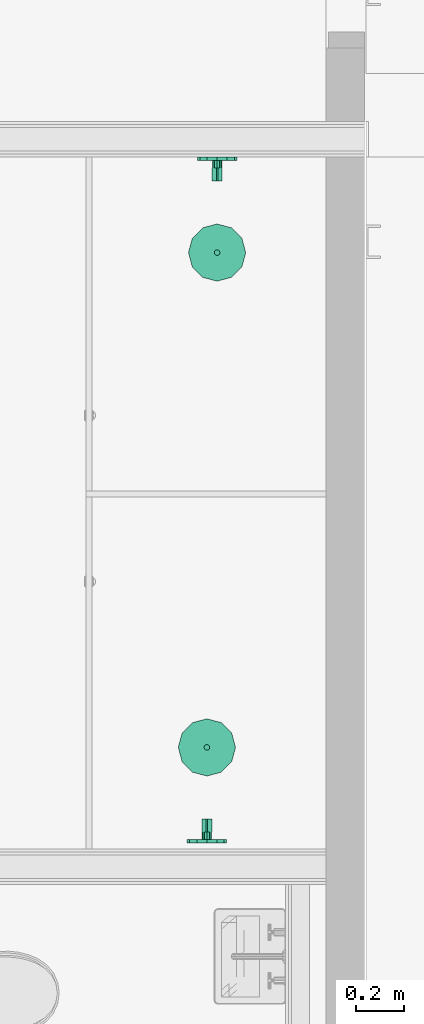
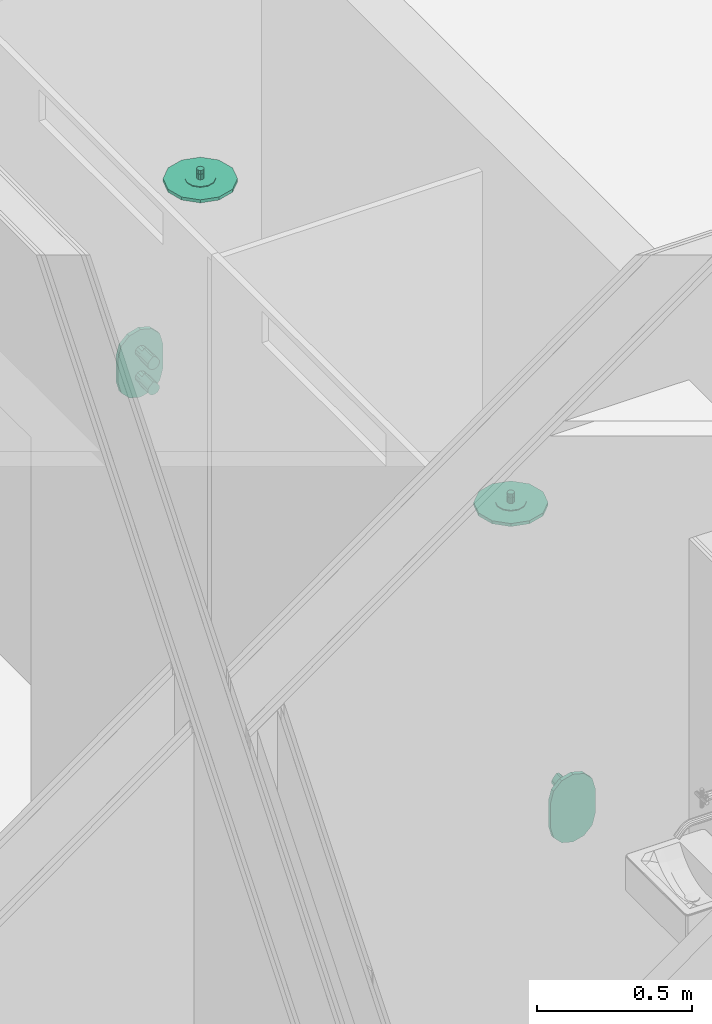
# One storey, part 28 of 35: 2 flow terminals.
"""IFC2X3 building model written with IfcOpenShell, lengths in millimetres."""

import ifcopenshell
import ifcopenshell.guid

model = None  # the IFC model being written
_history = None  # IfcOwnerHistory: only IFC2X3 demands one
_inside = {}  # id of a spatial element -> (the spatial element, [elements in it])
_under = {}  # id of a project, library or spatial element -> (it, [spatial elements below it])
_declared = {}  # id of a project -> (the project, [libraries it declares])
_typed = {}  # id of a type object -> (the type object, [elements of that type])
_made_of = {}  # id of a material, layer set ... -> (it, [elements and type objects made of it])


def new_model(schema):
    """Start an empty IFC model of exactly this schema.

    Asked for "IFC4X3", IfcOpenShell would pick the latest addendum, in which some entities
    have other attributes; the version numbers below select the first issue.
    IFC2X3 requires an IfcOwnerHistory on every rooted entity: one is made here for all.
    """
    global model, _history
    if schema == "IFC4X3":
        model = ifcopenshell.file(schema_version=(4, 3, 0, 0))
    else:
        model = ifcopenshell.file(schema=schema)
    _inside.clear()
    _under.clear()
    _declared.clear()
    _typed.clear()
    _made_of.clear()
    _history = None
    if model.schema == "IFC2X3":
        org = make("IfcOrganization", Name="unknown")
        user = make(
            "IfcPersonAndOrganization",
            ThePerson=make("IfcPerson", FamilyName="unknown"),
            TheOrganization=org,
        )
        app = make(
            "IfcApplication",
            ApplicationDeveloper=org,
            Version="unknown",
            ApplicationFullName="unknown",
            ApplicationIdentifier="unknown",
        )
        _history = make(
            "IfcOwnerHistory",
            OwningUser=user,
            OwningApplication=app,
            ChangeAction="ADDED",
            CreationDate=0,
        )
    return model


def make(cls, **values):
    """One entity of the class cls with the attributes given. An attribute that is None is left unset."""
    return model.create_entity(
        cls, **{name: value for name, value in values.items() if value is not None}
    )


def entity(cls, *values):
    """Any entity or typed value of the class cls, its attributes in the order of the schema. None: left unset."""
    e = model.create_entity(cls)
    for i, value in enumerate(values):
        if value is not None:
            e[i] = value
    return e


def rooted(cls, **values):
    """An entity with a GlobalId (a new one), such as an element, a storey or a relation."""
    return make(cls, GlobalId=ifcopenshell.guid.new(), OwnerHistory=_history, **values)


def si_unit(unit_type, name, prefix=None):
    """IfcSIUnit, for example si_unit("LENGTHUNIT", "METRE", prefix="MILLI")."""
    return make("IfcSIUnit", UnitType=unit_type, Prefix=prefix, Name=name)


def converted_unit(unit_type, name, factor, base, dimensions=None, offset=None):
    """IfcConversionBasedUnit, such as the inch: factor (a typed value) times the base unit."""
    return make(
        "IfcConversionBasedUnit"
        if offset is None
        else "IfcConversionBasedUnitWithOffset",
        ConversionOffset=offset,
        Dimensions=None
        if dimensions is None
        else entity("IfcDimensionalExponents", *dimensions),
        UnitType=unit_type,
        Name=name,
        ConversionFactor=make(
            "IfcMeasureWithUnit", ValueComponent=factor, UnitComponent=base
        ),
    )


def derived_unit(unit_type, elements):
    """IfcDerivedUnit: a product of units, each with its exponent."""
    return make(
        "IfcDerivedUnit",
        Elements=[
            make("IfcDerivedUnitElement", Unit=unit, Exponent=power)
            for unit, power in elements
        ],
        UnitType=unit_type,
    )


def money_unit(currency):
    """IfcMonetaryUnit."""
    return make("IfcMonetaryUnit", Currency=currency)


def assignment(units):
    """IfcUnitAssignment: the units of a project."""
    return None if units is None else make("IfcUnitAssignment", Units=units)


def point(xyz):
    """IfcCartesianPoint."""
    return None if xyz is None else make("IfcCartesianPoint", Coordinates=xyz)


def direction(xyz):
    """IfcDirection."""
    return None if xyz is None else make("IfcDirection", DirectionRatios=xyz)


def frame(location, z_axis=None, x_axis=None):
    """IfcAxis2Placement3D, a coordinate frame: its origin and axes. An axis left out is left unset."""
    return make(
        "IfcAxis2Placement3D",
        Location=point(location),
        Axis=direction(z_axis),
        RefDirection=direction(x_axis),
    )


def origin_with_axes():
    """The frame at (0, 0, 0) with the z axis (0, 0, 1) and the x axis (1, 0, 0) written out."""
    return frame((0.0, 0.0, 0.0), z_axis=(0.0, 0.0, 1.0), x_axis=(1.0, 0.0, 0.0))


def place(relative_to, where):
    """IfcLocalPlacement: puts the frame where relative to a parent placement (None: the world)."""
    return make(
        "IfcLocalPlacement", PlacementRelTo=relative_to, RelativePlacement=where
    )


def context(
    kind, dimensions, precision=None, world=None, true_north=None, identifier=None
):
    """IfcGeometricRepresentationContext, for example the 3D "Model" context."""
    return make(
        "IfcGeometricRepresentationContext",
        ContextIdentifier=identifier,
        ContextType=kind,
        CoordinateSpaceDimension=dimensions,
        Precision=precision,
        WorldCoordinateSystem=world,
        TrueNorth=true_north,
    )


def subcontext(parent, identifier, kind, view, scale=None):
    """IfcGeometricRepresentationSubContext, for example "Body" below "Model"."""
    return make(
        "IfcGeometricRepresentationSubContext",
        ContextIdentifier=identifier,
        ContextType=kind,
        ParentContext=parent,
        TargetScale=scale,
        TargetView=view,
    )


def project(units=None, contexts=None):
    """IfcProject with its units and contexts."""
    return rooted(
        "IfcProject",
        Name="project",
        RepresentationContexts=contexts,
        UnitsInContext=assignment(units),
    )


def spatial(cls, under=None, at=None, **own):
    """A site, building, storey or space (cls), placed at a placement, below another one or the project."""
    s = rooted(cls, ObjectPlacement=at, **own)
    if under is not None:
        _under.setdefault(under.id(), (under, []))[1].append(s)
    return s


def faces_of(points, faces, orient=None, outer=None):
    """IfcFace entities. A face is a list of loops; a loop is a list of indices into points, from 0.

    orient and outer hold one flag for each loop. By default every Orientation is true, the
    first loop of a face is its IfcFaceOuterBound and the others are IfcFaceBound.
    """
    made = []
    for i, loops in enumerate(faces):
        bounds = []
        for j, loop in enumerate(loops):
            is_outer = j == 0 if outer is None else outer[i][j]
            bounds.append(
                make(
                    "IfcFaceOuterBound" if is_outer else "IfcFaceBound",
                    Bound=make("IfcPolyLoop", Polygon=[points[k] for k in loop]),
                    Orientation=True if orient is None else orient[i][j],
                )
            )
        made.append(make("IfcFace", Bounds=bounds))
    return made


def faceted_brep(points, faces, orient=None, outer=None, voids=None):
    """IfcFacetedBrep: a solid bounded by flat faces; with voids (closed shells), ...WithVoids."""
    shared = [point(p) for p in points]
    hull = make("IfcClosedShell", CfsFaces=faces_of(shared, faces, orient, outer))
    if voids is None:
        return make("IfcFacetedBrep", Outer=hull)
    return make(
        "IfcFacetedBrepWithVoids",
        Outer=hull,
        Voids=[
            make(cls, CfsFaces=faces_of(shared, fs, o, b)) for cls, fs, o, b in voids
        ],
    )


def shape(context_of_items, identifier, shape_type, items):
    """IfcShapeRepresentation: the items that make up one representation, for example the "Body"."""
    return make(
        "IfcShapeRepresentation",
        ContextOfItems=context_of_items,
        RepresentationIdentifier=identifier,
        RepresentationType=shape_type,
        Items=items,
    )


def source(mapping_origin, context_of_items, identifier, shape_type, items):
    """IfcRepresentationMap: a shape defined once, which mapped items show again and again."""
    return make(
        "IfcRepresentationMap",
        MappingOrigin=mapping_origin,
        MappedRepresentation=shape(context_of_items, identifier, shape_type, items),
    )


def transform(
    local_origin,
    x_axis=None,
    y_axis=None,
    z_axis=None,
    scale=None,
    scale2=None,
    scale3=None,
    uniform=True,
):
    """IfcCartesianTransformationOperator3D, or its non-uniform kind. x_axis, y_axis, z_axis: its Axis1, 2, 3."""
    if uniform:
        return make(
            "IfcCartesianTransformationOperator3D",
            Axis1=direction(x_axis),
            Axis2=direction(y_axis),
            LocalOrigin=point(local_origin),
            Scale=scale,
            Axis3=direction(z_axis),
        )
    return make(
        "IfcCartesianTransformationOperator3DnonUniform",
        Axis1=direction(x_axis),
        Axis2=direction(y_axis),
        LocalOrigin=point(local_origin),
        Scale=scale,
        Axis3=direction(z_axis),
        Scale2=scale2,
        Scale3=scale3,
    )


def mapped(mapping_source, mapping_target):
    """IfcMappedItem: shows the shape of a source again, moved by a transform."""
    return make(
        "IfcMappedItem", MappingSource=mapping_source, MappingTarget=mapping_target
    )


def made_of(thing, what):
    """Note that an element or type object is made of a material, layer set ...; save() writes the relation."""
    if what is not None:
        _made_of.setdefault(what.id(), (what, []))[1].append(thing)
    return thing


def type_object(cls, material=None, **own):
    """A type object (cls), such as IfcWallType, which elements share."""
    return made_of(rooted(cls, **own), material)


def type_shapes(of_type, sources):
    """Give a type object the sources (RepresentationMaps) that its elements show as mapped items."""
    of_type.RepresentationMaps = sources


def element(
    cls,
    number,
    at=None,
    inside=None,
    cuts=None,
    type_object=None,
    material=None,
    context=None,
    identifier="Body",
    shape_type=None,
    held_by="IfcProductDefinitionShape",
    body=None,
    shapes=None,
    **own,
):
    """One element of the class cls, such as IfcWall. Its Tag is "e" and its number.

    at: its placement. inside: the storey or other place that contains it. cuts: it is an
    opening in that element (IfcRelVoidsElement). A single representation is given by context,
    identifier, shape_type and body (its items); several are given by shapes. held_by: the class
    of the entity that holds the representations. save() writes the other relations.
    """
    e = rooted(cls, Tag="e%d" % number, ObjectPlacement=at, **own)
    if body is not None:
        shapes = [shape(context, identifier, shape_type, body)]
    if shapes is not None:
        e.Representation = make(held_by, Representations=shapes)
    if inside is not None:
        _inside.setdefault(inside.id(), (inside, []))[1].append(e)
    if cuts is not None:
        rooted(
            "IfcRelVoidsElement", RelatingBuildingElement=cuts, RelatedOpeningElement=e
        )
    if type_object is not None:
        _typed.setdefault(type_object.id(), (type_object, []))[1].append(e)
    return made_of(e, material)


def aggregate(whole, parts):
    """IfcRelAggregates: a whole, such as a stair, and the parts it consists of."""
    return rooted("IfcRelAggregates", RelatingObject=whole, RelatedObjects=parts)


def save(model, path):
    """Write the relations noted so far, then the file.

    IfcRelAggregates (storeys below a building ...), IfcRelContainedInSpatialStructure (elements
    in a storey), IfcRelDefinesByType, IfcRelAssociatesMaterial and IfcRelDeclares: one each for
    every whole, place, type object, material and project.
    """
    for whole, parts in _under.values():
        aggregate(whole, parts)
    for where, things in _inside.values():
        rooted(
            "IfcRelContainedInSpatialStructure",
            RelatedElements=things,
            RelatingStructure=where,
        )
    for kind, things in _typed.values():
        rooted("IfcRelDefinesByType", RelatedObjects=things, RelatingType=kind)
    for what, things in _made_of.values():
        rooted("IfcRelAssociatesMaterial", RelatedObjects=things, RelatingMaterial=what)
    for by, libraries in _declared.values():
        rooted("IfcRelDeclares", RelatingContext=by, RelatedDefinitions=libraries)
    model.write(path)


model = new_model("IFC2X3")

# Units and contexts
model_context = context("Model", 3, precision=0.01, world=origin_with_axes(), true_north=direction((0.0, 1.0)))
body_context = subcontext(model_context, "Body", "Model", "MODEL_VIEW")
ifc_project = project(units=[si_unit("LENGTHUNIT", "METRE", prefix="MILLI"), si_unit("AREAUNIT", "SQUARE_METRE"), si_unit("VOLUMEUNIT", "CUBIC_METRE"), converted_unit("PLANEANGLEUNIT", "DEGREE", entity("IfcPlaneAngleMeasure", 0.0174532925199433), si_unit("PLANEANGLEUNIT", "RADIAN"), dimensions=[0, 0, 0, 0, 0, 0, 0]), money_unit("EUR"), converted_unit("TIMEUNIT", "Year", entity("IfcTimeMeasure", 31557600.0), si_unit("TIMEUNIT", "SECOND"), dimensions=[0, 0, 1, 0, 0, 0, 0]), si_unit("MASSUNIT", "GRAM", prefix="KILO"), si_unit("THERMODYNAMICTEMPERATUREUNIT", "DEGREE_CELSIUS"), si_unit("LUMINOUSINTENSITYUNIT", "LUMEN"), si_unit("ENERGYUNIT", "JOULE", prefix="MEGA"), derived_unit("THERMALCONDUCTANCEUNIT", [(si_unit("POWERUNIT", "WATT"), 1), (si_unit("LENGTHUNIT", "METRE"), -1), (si_unit("THERMODYNAMICTEMPERATUREUNIT", "KELVIN"), -1)]), derived_unit("SPECIFICHEATCAPACITYUNIT", [(si_unit("ENERGYUNIT", "JOULE"), 1), (si_unit("MASSUNIT", "GRAM", prefix="KILO"), -1), (si_unit("THERMODYNAMICTEMPERATUREUNIT", "KELVIN"), -1)]), derived_unit("MASSDENSITYUNIT", [(si_unit("MASSUNIT", "GRAM", prefix="KILO"), 1), (si_unit("VOLUMEUNIT", "CUBIC_METRE"), -1)])], contexts=[model_context])

# Site, building, storey
site_placement = place(None, origin_with_axes())
site = spatial("IfcSite", under=ifc_project, at=site_placement, Name="<site naam>", CompositionType="ELEMENT")
building_placement = place(site_placement, origin_with_axes())
building = spatial("IfcBuilding", under=site, at=building_placement, Name="<Naam gebouw>", CompositionType="ELEMENT")
storey_placement = place(building_placement, frame((0.0, 0.0, 6345.0), z_axis=(0.0, 0.0, 1.0), x_axis=(1.0, 0.0, 0.0)))
storey = spatial("IfcBuildingStorey", under=building, at=storey_placement, Name="02 2e tussenverdieping", CompositionType="ELEMENT", Elevation=6345.0)

# Flow terminals
sanitary_terminal_type = type_object("IfcSanitaryTerminalType", Name="Douche armatuur 27", PredefinedType="NOTDEFINED")
shared_shape = source(origin_with_axes(), body_context, "Body", "Brep", [
    faceted_brep([(-83.0, 0.0, 1000.0), (-83.0, 0.0, 950.0), (-83.0, -15.0, 950.0), (-83.0, -15.0, 1000.0), (-83.0, 0.0, 1050.0), (-71.88010851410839, 0.0, 1091.5), (-41.49999999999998, 0.0, 1121.880108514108), (0.0, 0.0, 1133.0), (41.50000000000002, 0.0, 1121.880108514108), (71.88010851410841, 0.0, 1091.5), (83.0, 0.0, 1050.0), (83.0, 0.0, 950.0), (71.88010851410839, 0.0, 908.5), (41.49999999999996, 0.0, 878.1198914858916), (0.0, 0.0, 867.0), (-41.50000000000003, 0.0, 878.1198914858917), (-71.88010851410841, 0.0, 908.5), (-71.88010851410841, -15.00000000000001, 908.5), (-41.50000000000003, -15.00000000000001, 878.1198914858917), (0.0, -15.00000000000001, 867.0), (41.49999999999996, -15.00000000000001, 878.1198914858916), (71.88010851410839, -15.00000000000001, 908.5), (83.0, -15.0, 950.0), (83.0, -15.0, 1050.0), (71.88010851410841, -14.99999999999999, 1091.5), (41.50000000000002, -14.99999999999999, 1121.880108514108), (0.0, -14.99999999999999, 1133.0), (-41.49999999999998, -14.99999999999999, 1121.880108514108), (-71.88010851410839, -14.99999999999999, 1091.5), (-83.0, -15.0, 1050.0)], [[[0, 1, 2, 3]], [[0, 4, 5, 6, 7, 8, 9, 10, 11, 12, 13, 14, 15, 16, 1]], [[1, 16, 17, 2]], [[3, 2, 17, 18, 19, 20, 21, 22, 23, 24, 25, 26, 27, 28, 29]], [[4, 0, 3, 29]], [[5, 4, 29, 28]], [[6, 5, 28, 27]], [[7, 6, 27, 26]], [[8, 7, 26, 25]], [[9, 8, 25, 24]], [[10, 9, 24, 23]], [[11, 10, 23, 22]], [[12, 11, 22, 21]], [[13, 12, 21, 20]], [[14, 13, 20, 19]], [[15, 14, 19, 18]], [[16, 15, 18, 17]]]),
    faceted_brep([(17.32050807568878, -45.0, 960.0), (20.0, -45.0, 950.0), (20.0, -15.0, 950.0), (17.32050807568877, -15.0, 960.0), (10.00000000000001, -45.0, 967.3205080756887), (0.0, -45.0, 970.0), (-9.999999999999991, -45.0, 967.3205080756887), (-17.32050807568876, -45.0, 960.0), (-19.99999999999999, -45.0, 950.0), (-17.32050807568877, -45.0, 940.0), (-10.00000000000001, -45.0, 932.6794919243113), (0.0, -45.0, 929.9999999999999), (9.999999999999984, -45.0, 932.6794919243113), (17.32050807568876, -45.0, 940.0), (17.32050807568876, -15.0, 940.0), (9.999999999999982, -15.0, 932.6794919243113), (0.0, -15.0, 929.9999999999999), (-10.00000000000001, -15.0, 932.6794919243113), (-17.32050807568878, -15.0, 940.0), (-20.0, -15.0, 950.0), (-17.32050807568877, -15.0, 960.0), (-9.999999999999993, -15.0, 967.3205080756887), (0.0, -15.0, 970.0), (10.0, -15.0, 967.3205080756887)], [[[0, 1, 2, 3]], [[1, 0, 4, 5, 6, 7, 8, 9, 10, 11, 12, 13]], [[1, 13, 14, 2]], [[2, 14, 15, 16, 17, 18, 19, 20, 21, 22, 23, 3]], [[4, 0, 3, 23]], [[5, 4, 23, 22]], [[6, 5, 22, 21]], [[7, 6, 21, 20]], [[8, 7, 20, 19]], [[9, 8, 19, 18]], [[10, 9, 18, 17]], [[11, 10, 17, 16]], [[12, 11, 16, 15]], [[13, 12, 15, 14]]]),
    faceted_brep([(-3.111269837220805, -45.0, 978.0014285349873), (-15.55634918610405, -45.0, 965.5563491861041), (-15.55634918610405, -100.0, 965.5563491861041), (-3.111269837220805, -100.0, 978.0014285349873), (3.111269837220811, -45.0, 978.0014285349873), (15.55634918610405, -45.0, 965.5563491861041), (21.2503681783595, -45.0, 955.6940189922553), (21.2503681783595, -45.0, 944.3059810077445), (15.55634918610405, -45.0, 934.4436508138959), (5.694018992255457, -45.0, 928.7496318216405), (-5.694018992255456, -45.0, 928.7496318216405), (-15.55634918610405, -45.0, 934.4436508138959), (-21.2503681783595, -45.0, 944.3059810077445), (-21.2503681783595, -45.0, 955.6940189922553), (-21.2503681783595, -100.0, 955.6940189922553), (-21.2503681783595, -100.0, 944.3059810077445), (-15.55634918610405, -100.0, 934.4436508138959), (-5.694018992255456, -100.0, 928.7496318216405), (5.694018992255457, -100.0, 928.7496318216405), (15.55634918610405, -100.0, 934.4436508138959), (21.2503681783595, -100.0, 944.3059810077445), (21.2503681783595, -100.0, 955.6940189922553), (15.55634918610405, -100.0, 965.5563491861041), (3.111269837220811, -100.0, 978.0014285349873)], [[[0, 1, 2, 3]], [[0, 4, 5, 6, 7, 8, 9, 10, 11, 12, 13, 1]], [[1, 13, 14, 2]], [[3, 2, 14, 15, 16, 17, 18, 19, 20, 21, 22, 23]], [[4, 0, 3, 23]], [[5, 4, 23, 22]], [[6, 5, 22, 21]], [[7, 6, 21, 20]], [[8, 7, 20, 19]], [[9, 8, 19, 18]], [[10, 9, 18, 17]], [[11, 10, 17, 16]], [[12, 11, 16, 15]], [[13, 12, 15, 14]]]),
    faceted_brep([(17.32050807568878, -45.0, 1060.0), (20.0, -45.0, 1050.0), (20.0, -15.0, 1050.0), (17.32050807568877, -15.0, 1060.0), (10.00000000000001, -45.0, 1067.320508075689), (0.0, -45.0, 1070.0), (-9.999999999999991, -45.0, 1067.320508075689), (-17.32050807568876, -45.0, 1060.0), (-19.99999999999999, -45.0, 1050.0), (-17.32050807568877, -45.0, 1040.0), (-10.00000000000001, -45.0, 1032.679491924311), (0.0, -45.0, 1030.0), (9.999999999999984, -45.0, 1032.679491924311), (17.32050807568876, -45.0, 1040.0), (17.32050807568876, -15.0, 1040.0), (9.999999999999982, -15.0, 1032.679491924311), (0.0, -15.0, 1030.0), (-10.00000000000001, -15.0, 1032.679491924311), (-17.32050807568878, -15.0, 1040.0), (-20.0, -15.0, 1050.0), (-17.32050807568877, -15.0, 1060.0), (-9.999999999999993, -15.0, 1067.320508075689), (0.0, -15.0, 1070.0), (10.0, -15.0, 1067.320508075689)], [[[0, 1, 2, 3]], [[1, 0, 4, 5, 6, 7, 8, 9, 10, 11, 12, 13]], [[1, 13, 14, 2]], [[2, 14, 15, 16, 17, 18, 19, 20, 21, 22, 23, 3]], [[4, 0, 3, 23]], [[5, 4, 23, 22]], [[6, 5, 22, 21]], [[7, 6, 21, 20]], [[8, 7, 20, 19]], [[9, 8, 19, 18]], [[10, 9, 18, 17]], [[11, 10, 17, 16]], [[12, 11, 16, 15]], [[13, 12, 15, 14]]]),
    faceted_brep([(-3.111269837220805, -45.0, 1078.001428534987), (-15.55634918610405, -45.0, 1065.556349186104), (-15.55634918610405, -100.0, 1065.556349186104), (-3.111269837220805, -100.0, 1078.001428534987), (3.111269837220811, -45.0, 1078.001428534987), (15.55634918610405, -45.0, 1065.556349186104), (21.2503681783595, -45.0, 1055.694018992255), (21.2503681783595, -45.0, 1044.305981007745), (15.55634918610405, -45.0, 1034.443650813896), (5.694018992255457, -45.0, 1028.74963182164), (-5.694018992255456, -45.0, 1028.74963182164), (-15.55634918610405, -45.0, 1034.443650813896), (-21.2503681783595, -45.0, 1044.305981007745), (-21.2503681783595, -45.0, 1055.694018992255), (-21.2503681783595, -100.0, 1055.694018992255), (-21.2503681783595, -100.0, 1044.305981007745), (-15.55634918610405, -100.0, 1034.443650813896), (-5.694018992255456, -100.0, 1028.74963182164), (5.694018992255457, -100.0, 1028.74963182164), (15.55634918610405, -100.0, 1034.443650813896), (21.2503681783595, -100.0, 1044.305981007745), (21.2503681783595, -100.0, 1055.694018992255), (15.55634918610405, -100.0, 1065.556349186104), (3.111269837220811, -100.0, 1078.001428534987)], [[[0, 1, 2, 3]], [[0, 4, 5, 6, 7, 8, 9, 10, 11, 12, 13, 1]], [[1, 13, 14, 2]], [[3, 2, 14, 15, 16, 17, 18, 19, 20, 21, 22, 23]], [[4, 0, 3, 23]], [[5, 4, 23, 22]], [[6, 5, 22, 21]], [[7, 6, 21, 20]], [[8, 7, 20, 19]], [[9, 8, 19, 18]], [[10, 9, 18, 17]], [[11, 10, 17, 16]], [[12, 11, 16, 15]], [[13, 12, 15, 14]]]),
    faceted_brep([(54.99999999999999, -304.7372055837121, 1946.0), (0.0, -290.0000000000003, 1946.0), (0.0, -290.0000000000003, 1948.0), (54.99999999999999, -304.7372055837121, 1948.0), (95.26279441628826, -345.0000000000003, 1946.0), (110.0, -400.0000000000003, 1946.0), (95.26279441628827, -455.0000000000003, 1946.0), (55.00000000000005, -495.2627944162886, 1946.0), (0.0, -510.0000000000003, 1946.0), (-54.99999999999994, -495.2627944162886, 1946.0), (-95.26279441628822, -455.0000000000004, 1946.0), (-110.0, -400.0000000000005, 1946.0), (-95.2627944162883, -345.0000000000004, 1946.0), (-55.0000000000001, -304.7372055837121, 1946.0), (-55.0000000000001, -304.7372055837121, 1948.0), (0.0, -280.0000000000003, 1948.0), (60.0, -296.0769515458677, 1948.0), (95.26279441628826, -345.0000000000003, 1948.0), (110.0, -400.0000000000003, 1948.0), (95.26279441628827, -455.0000000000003, 1948.0), (55.00000000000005, -495.2627944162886, 1948.0), (0.0, -510.0000000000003, 1948.0), (-54.99999999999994, -495.2627944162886, 1948.0), (-95.26279441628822, -455.0000000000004, 1948.0), (-110.0, -400.0000000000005, 1948.0), (-95.2627944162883, -345.0000000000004, 1948.0), (-60.00000000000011, -296.0769515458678, 1948.0), (0.0, -280.0000000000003, 1960.0), (60.0, -296.0769515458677, 1960.0), (103.9230484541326, -340.0000000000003, 1948.0), (120.0, -400.0000000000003, 1948.0), (103.9230484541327, -460.0000000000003, 1948.0), (60.00000000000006, -503.9230484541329, 1948.0), (0.0, -520.0000000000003, 1948.0), (-59.99999999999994, -503.923048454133, 1948.0), (-103.9230484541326, -460.0000000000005, 1948.0), (-120.0, -400.0000000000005, 1948.0), (-103.9230484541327, -340.0000000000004, 1948.0), (-60.00000000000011, -296.0769515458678, 1960.0), (0.0, -350.0000000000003, 1960.0), (25.0, -356.6987298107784, 1960.0), (103.9230484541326, -340.0000000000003, 1960.0), (120.0, -400.0000000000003, 1960.0), (103.9230484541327, -460.0000000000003, 1960.0), (60.00000000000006, -503.9230484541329, 1960.0), (0.0, -520.0000000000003, 1960.0), (-59.99999999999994, -503.923048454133, 1960.0), (-103.9230484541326, -460.0000000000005, 1960.0), (-120.0, -400.0000000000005, 1960.0), (-103.9230484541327, -340.0000000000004, 1960.0), (-25.00000000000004, -356.6987298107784, 1960.0), (0.0, -350.0000000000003, 1963.0), (25.0, -356.6987298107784, 1963.0), (43.30127018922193, -375.0000000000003, 1960.0), (50.0, -400.0000000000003, 1960.0), (43.30127018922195, -425.0000000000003, 1960.0), (25.00000000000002, -443.3012701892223, 1960.0), (0.0, -450.0000000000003, 1960.0), (-24.99999999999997, -443.3012701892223, 1960.0), (-43.30127018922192, -425.0000000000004, 1960.0), (-50.0, -400.0000000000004, 1960.0), (-43.30127018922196, -375.0000000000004, 1960.0), (-25.00000000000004, -356.6987298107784, 1963.0), (0.0, -388.0000000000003, 1963.0), (6.000000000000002, -389.6076951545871, 1963.0), (43.30127018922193, -375.0000000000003, 1963.0), (50.0, -400.0000000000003, 1963.0), (43.30127018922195, -425.0000000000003, 1963.0), (25.00000000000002, -443.3012701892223, 1963.0), (0.0, -450.0000000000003, 1963.0), (-24.99999999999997, -443.3012701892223, 1963.0), (-43.30127018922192, -425.0000000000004, 1963.0), (-50.0, -400.0000000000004, 1963.0), (-43.30127018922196, -375.0000000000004, 1963.0), (-6.000000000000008, -389.6076951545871, 1963.0), (0.0, -388.0000000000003, 1984.0), (6.0, -389.6076951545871, 1984.0), (10.39230484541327, -394.0000000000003, 1963.0), (12.0, -400.0000000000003, 1963.0), (10.39230484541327, -406.0000000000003, 1963.0), (6.000000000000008, -410.3923048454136, 1963.0), (0.0, -412.0000000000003, 1963.0), (-5.99999999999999, -410.3923048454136, 1963.0), (-10.39230484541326, -406.0000000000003, 1963.0), (-12.0, -400.0000000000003, 1963.0), (-10.39230484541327, -394.0000000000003, 1963.0), (-6.00000000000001, -389.6076951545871, 1984.0), (0.0, -390.0000000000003, 1984.0), (5.0, -391.339745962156, 1984.0), (10.39230484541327, -394.0000000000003, 1984.0), (12.0, -400.0000000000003, 1984.0), (10.39230484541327, -406.0000000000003, 1984.0), (6.000000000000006, -410.3923048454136, 1984.0), (0.0, -412.0000000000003, 1984.0), (-5.999999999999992, -410.3923048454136, 1984.0), (-10.39230484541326, -406.0000000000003, 1984.0), (-12.0, -400.0000000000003, 1984.0), (-10.39230484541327, -394.0000000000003, 1984.0), (-5.000000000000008, -391.339745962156, 1984.0), (0.0, -390.0000000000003, 1987.0), (5.0, -391.339745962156, 1987.0), (8.660254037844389, -395.0000000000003, 1984.0), (10.0, -400.0000000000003, 1984.0), (8.66025403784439, -405.0000000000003, 1984.0), (5.000000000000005, -408.6602540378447, 1984.0), (0.0, -410.0000000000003, 1984.0), (-4.999999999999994, -408.6602540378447, 1984.0), (-8.660254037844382, -405.0000000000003, 1984.0), (-9.999999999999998, -400.0000000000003, 1984.0), (-8.66025403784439, -395.0000000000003, 1984.0), (-5.000000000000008, -391.339745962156, 1987.0), (0.0, -388.0000000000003, 1987.0), (6.0, -389.6076951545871, 1987.0), (8.660254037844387, -395.0000000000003, 1987.0), (10.0, -400.0000000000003, 1987.0), (8.660254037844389, -405.0000000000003, 1987.0), (5.000000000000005, -408.6602540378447, 1987.0), (0.0, -410.0000000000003, 1987.0), (-4.999999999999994, -408.6602540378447, 1987.0), (-8.660254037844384, -405.0000000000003, 1987.0), (-10.0, -400.0000000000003, 1987.0), (-8.66025403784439, -395.0000000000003, 1987.0), (-6.00000000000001, -389.6076951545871, 1987.0), (0.0, -388.0000000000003, 2000.0), (5.999999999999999, -389.6076951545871, 2000.0), (10.39230484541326, -394.0000000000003, 1987.0), (12.0, -400.0000000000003, 1987.0), (10.39230484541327, -406.0000000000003, 1987.0), (6.000000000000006, -410.3923048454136, 1987.0), (0.0, -412.0000000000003, 1987.0), (-5.999999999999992, -410.3923048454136, 1987.0), (-10.39230484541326, -406.0000000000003, 1987.0), (-12.0, -400.0000000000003, 1987.0), (-10.39230484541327, -394.0000000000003, 1987.0), (-6.000000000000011, -389.6076951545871, 2000.0), (-10.39230484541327, -394.0000000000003, 2000.0), (-12.0, -400.0000000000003, 2000.0), (-10.39230484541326, -406.0000000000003, 2000.0), (-5.999999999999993, -410.3923048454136, 2000.0), (0.0, -412.0000000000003, 2000.0), (6.000000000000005, -410.3923048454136, 2000.0), (10.39230484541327, -406.0000000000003, 2000.0), (12.0, -400.0000000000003, 2000.0), (10.39230484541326, -394.0000000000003, 2000.0)], [[[0, 1, 2, 3]], [[1, 0, 4, 5, 6, 7, 8, 9, 10, 11, 12, 13]], [[1, 13, 14, 2]], [[3, 2, 15, 16]], [[4, 0, 3, 17]], [[5, 4, 17, 18]], [[6, 5, 18, 19]], [[7, 6, 19, 20]], [[8, 7, 20, 21]], [[9, 8, 21, 22]], [[10, 9, 22, 23]], [[11, 10, 23, 24]], [[12, 11, 24, 25]], [[13, 12, 25, 14]], [[2, 14, 26, 15]], [[16, 15, 27, 28]], [[17, 3, 16, 29]], [[18, 17, 29, 30]], [[19, 18, 30, 31]], [[20, 19, 31, 32]], [[21, 20, 32, 33]], [[22, 21, 33, 34]], [[23, 22, 34, 35]], [[24, 23, 35, 36]], [[25, 24, 36, 37]], [[14, 25, 37, 26]], [[15, 26, 38, 27]], [[28, 27, 39, 40]], [[29, 16, 28, 41]], [[30, 29, 41, 42]], [[31, 30, 42, 43]], [[32, 31, 43, 44]], [[33, 32, 44, 45]], [[34, 33, 45, 46]], [[35, 34, 46, 47]], [[36, 35, 47, 48]], [[37, 36, 48, 49]], [[26, 37, 49, 38]], [[27, 38, 50, 39]], [[40, 39, 51, 52]], [[41, 28, 40, 53]], [[42, 41, 53, 54]], [[43, 42, 54, 55]], [[44, 43, 55, 56]], [[45, 44, 56, 57]], [[46, 45, 57, 58]], [[47, 46, 58, 59]], [[48, 47, 59, 60]], [[49, 48, 60, 61]], [[38, 49, 61, 50]], [[39, 50, 62, 51]], [[52, 51, 63, 64]], [[53, 40, 52, 65]], [[54, 53, 65, 66]], [[55, 54, 66, 67]], [[56, 55, 67, 68]], [[57, 56, 68, 69]], [[58, 57, 69, 70]], [[59, 58, 70, 71]], [[60, 59, 71, 72]], [[61, 60, 72, 73]], [[50, 61, 73, 62]], [[51, 62, 74, 63]], [[64, 63, 75, 76]], [[65, 52, 64, 77]], [[66, 65, 77, 78]], [[67, 66, 78, 79]], [[68, 67, 79, 80]], [[69, 68, 80, 81]], [[70, 69, 81, 82]], [[71, 70, 82, 83]], [[72, 71, 83, 84]], [[73, 72, 84, 85]], [[62, 73, 85, 74]], [[63, 74, 86, 75]], [[76, 75, 87, 88]], [[77, 64, 76, 89]], [[78, 77, 89, 90]], [[79, 78, 90, 91]], [[80, 79, 91, 92]], [[81, 80, 92, 93]], [[82, 81, 93, 94]], [[83, 82, 94, 95]], [[84, 83, 95, 96]], [[85, 84, 96, 97]], [[74, 85, 97, 86]], [[75, 86, 98, 87]], [[88, 87, 99, 100]], [[89, 76, 88, 101]], [[90, 89, 101, 102]], [[91, 90, 102, 103]], [[92, 91, 103, 104]], [[93, 92, 104, 105]], [[94, 93, 105, 106]], [[95, 94, 106, 107]], [[96, 95, 107, 108]], [[97, 96, 108, 109]], [[86, 97, 109, 98]], [[87, 98, 110, 99]], [[100, 99, 111, 112]], [[101, 88, 100, 113]], [[102, 101, 113, 114]], [[103, 102, 114, 115]], [[104, 103, 115, 116]], [[105, 104, 116, 117]], [[106, 105, 117, 118]], [[107, 106, 118, 119]], [[108, 107, 119, 120]], [[109, 108, 120, 121]], [[98, 109, 121, 110]], [[99, 110, 122, 111]], [[112, 111, 123, 124]], [[113, 100, 112, 125]], [[114, 113, 125, 126]], [[115, 114, 126, 127]], [[116, 115, 127, 128]], [[117, 116, 128, 129]], [[118, 117, 129, 130]], [[119, 118, 130, 131]], [[120, 119, 131, 132]], [[121, 120, 132, 133]], [[110, 121, 133, 122]], [[111, 122, 134, 123]], [[123, 134, 135, 136, 137, 138, 139, 140, 141, 142, 143, 124]], [[125, 112, 124, 143]], [[126, 125, 143, 142]], [[127, 126, 142, 141]], [[128, 127, 141, 140]], [[129, 128, 140, 139]], [[130, 129, 139, 138]], [[131, 130, 138, 137]], [[132, 131, 137, 136]], [[133, 132, 136, 135]], [[122, 133, 135, 134]]]),
])
type_shapes(sanitary_terminal_type, [shared_shape])
for number, where, z_axis, x_axis, name in (
    (1, (57700.36368689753, 15824.99999999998, -75.00000000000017), (0.0, 0.0, 1.0), (1.0, 0.0, 0.0), "74_Brandslanghaspelkast_Lege"),
    (2, (57657.58070606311, 12950.95640098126, -75.00000000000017), (0.0, 0.0, 1.0), (-1.0, 0.0, 0.0), "74_Brandslanghaspelkast_Lege"),
):
    element("IfcFlowTerminal", number, at=place(storey_placement, frame(where, z_axis=z_axis, x_axis=x_axis)), inside=storey, type_object=sanitary_terminal_type, Name=name, ObjectType="Sanitary Terminal", context=body_context, shape_type="MappedRepresentation", body=[
        mapped(shared_shape, transform((0.0, 0.0, 0.0))),
    ])

save(model, "model.ifc")
